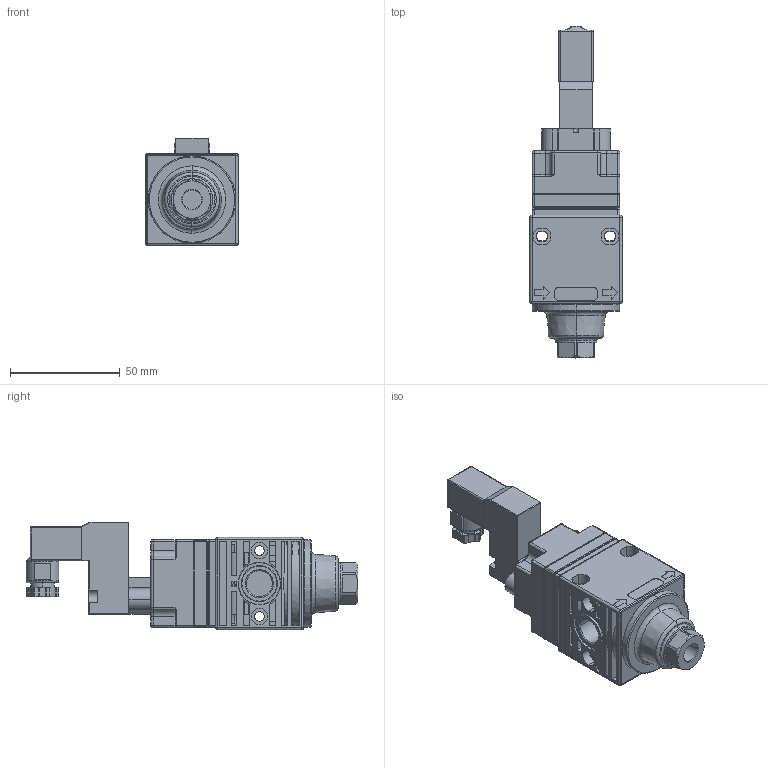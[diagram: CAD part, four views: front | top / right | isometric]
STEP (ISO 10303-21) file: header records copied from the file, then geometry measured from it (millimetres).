
FILE_DESCRIPTION(('STEP AP214'),'1');
FILE_NAME('042 SV Microsol.stp','2018-02-05T07:18:46',(' '),(' '),'Spatial InterOp 3D',' ',' ');
FILE_SCHEMA(('AUTOMOTIVE_DESIGN { 1 0 10303 214 1 1 1 1 }'));
Length unit declared in the file: metre
Products named in the file (1): SV 042 Microsol
Bounding box: 42 x 151.05 x 48.9 mm (x, y, z)
Volume: 142396.4 mm3; surface area: 32577 mm2
Topology: 3 solids, 5 shells, 913 faces, 2207 edges, 1312 vertices
Faces by surface type: plane 395, cylinder 309, torus 92, sphere 56, cone 43, extrusion 16, bspline 2
Entity records: 35166 total; most frequent: CARTESIAN_POINT 6368, DIRECTION 4709, ORIENTED_EDGE 4316, EDGE_CURVE 2158, AXIS2_PLACEMENT_3D 1739, VERTEX_POINT 1312, VECTOR 1231, LINE 1215
